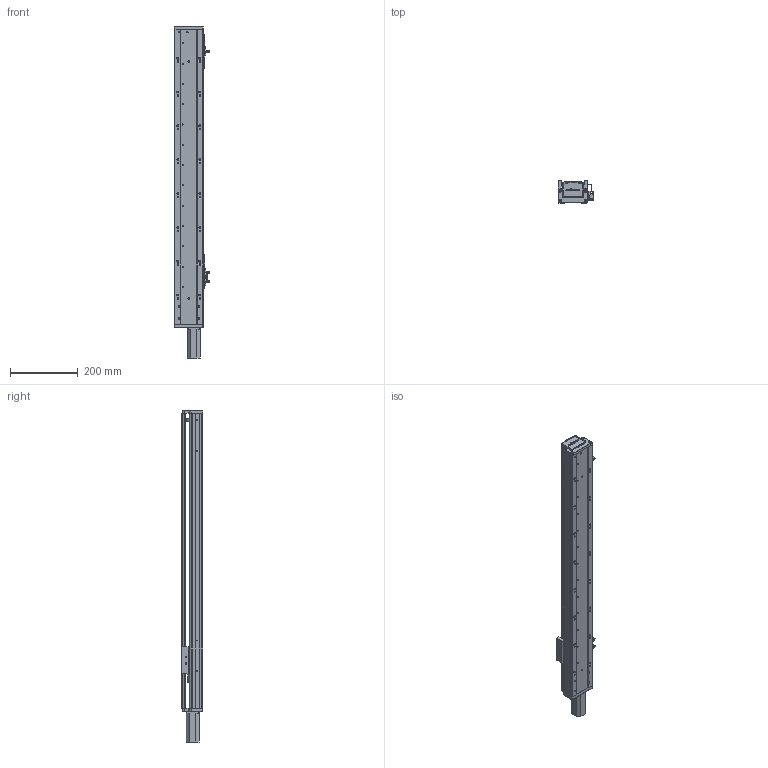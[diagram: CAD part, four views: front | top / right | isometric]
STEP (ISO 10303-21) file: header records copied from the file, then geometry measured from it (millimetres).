
FILE_DESCRIPTION (( 'STEP AP203' ), '1' );
FILE_NAME ('RY80-L1620-300-MK(100W).SLDASM_650.step', '2021-02-20T02:19:54', ( '' ), ( '' ), 'SwSTEP 2.0', 'SolidWorks 2012', '' );
FILE_SCHEMA (( 'CONFIG_CONTROL_DESIGN' ));
Products named in the file (12): RY80-L1620-300-MK(100W).SLDASM_650; RY80俋离覜茼え; 滅袉蝶18-24; 侂狟100W; 滅袉蝶18-10; RY80綴裔啣; 覜茼ん672; 672嫖萇羲壽假蚾釱; RY80臏賑輸; RY80前盖板(100W电机)M3; RY80-300-MK倰第菁釱_650; RY80-300-MK倰第奻裔啣_650
Assembly tree (14 placements, depth 2):
  RY80-L1620-300-MK(100W).SLDASM_650
    RY80-300-MK倰第菁釱_650
    RY80臏賑輸
    RY80-300-MK倰第奻裔啣_650
    RY80前盖板(100W电机)M3
    RY80綴裔啣
    滅袉蝶18-10
    672嫖萇羲壽假蚾釱  x2
    覜茼ん672  x3
    RY80俋离覜茼え
    滅袉蝶18-24
    侂狟100W
Bounding box: 103.7 x 65 x 981 mm (x, y, z)
Volume: 1450555.3 mm3; surface area: 609334.8 mm2
Topology: 14 solids, 14 shells, 1631 faces, 4583 edges, 2993 vertices
Faces by surface type: plane 916, cylinder 607, cone 74, bspline 34
Entity records: 51700 total; most frequent: CARTESIAN_POINT 13983, ORIENTED_EDGE 7934, DIRECTION 7036, EDGE_CURVE 3967, VERTEX_POINT 2609, LINE 2400, VECTOR 2400, AXIS2_PLACEMENT_3D 2318
